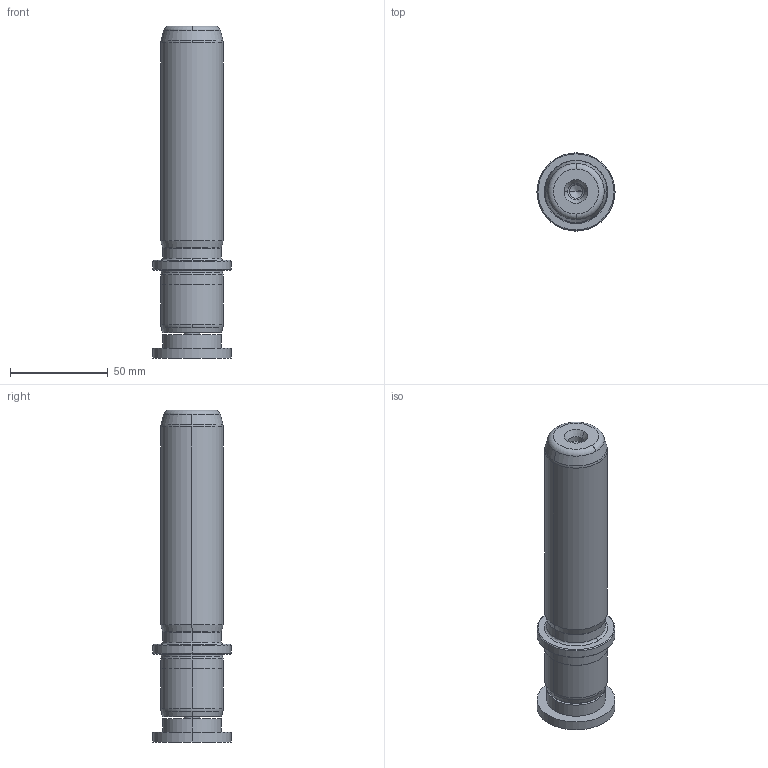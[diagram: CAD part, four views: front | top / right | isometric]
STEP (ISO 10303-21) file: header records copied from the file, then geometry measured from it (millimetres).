
FILE_DESCRIPTION((''),'2;1');
FILE_NAME('P22_032_125.stp','2009-02-03T14:00:54',(''),(''),'Mechanical Desktop 2009','Mechanical Desktop 2009',', , ');
FILE_SCHEMA(('CONFIG_CONTROL_DESIGN'));
Length unit declared in the file: millimetre
Products named in the file (2): Product; blmdl1
Assembly tree (1 placements, depth 2):
  Product
    blmdl1
Bounding box: 40 x 40 x 170 mm (x, y, z)
Volume: 135851.2 mm3; surface area: 24372 mm2
Topology: 3 solids, 3 shells, 99 faces, 237 edges, 149 vertices
Faces by surface type: cylinder 32, cone 28, plane 19, torus 10, bspline 10
Entity records: 3419 total; most frequent: CARTESIAN_POINT 923, DIRECTION 570, ORIENTED_EDGE 466, AXIS2_PLACEMENT_3D 246, EDGE_CURVE 233, CIRCLE 155, VERTEX_POINT 149, EDGE_LOOP 110
